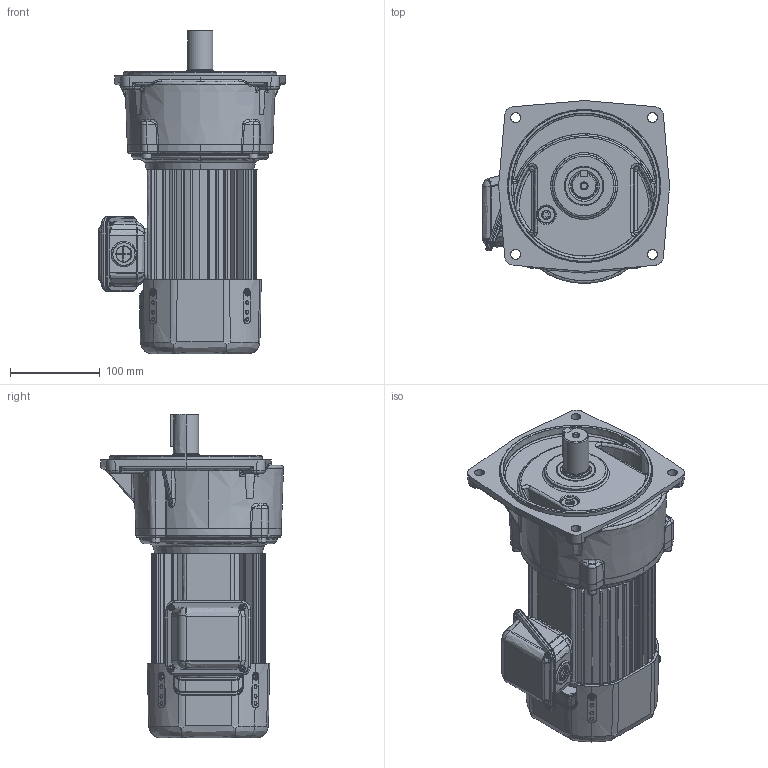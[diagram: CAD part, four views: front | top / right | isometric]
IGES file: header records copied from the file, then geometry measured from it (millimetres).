
Start section: SolidWorks IGES file using analytic representation for surfaces
Global section: file name: \\100.100.100.8\1_共有作業フォルダ\1-5_３Ｄデータ\solidworks\personal-folder\H.Nagayama\SGP1外形\P1(3D)\igs\TMFB2-04-(30~80).IGS; native system: SolidWorks 2018; preprocessor: SolidWorks 2018; author: sigma-giken; date: 200508.142503; units: millimetre
Bounding box: 208 x 203.34 x 360 mm (x, y, z)
Surface area: 479645.4 mm2 (no closed solid volume)
Topology: 0 solids, 0 shells, 1832 faces, 23501 edges, 23472 vertices
Faces by surface type: bspline 991, revolution 841
